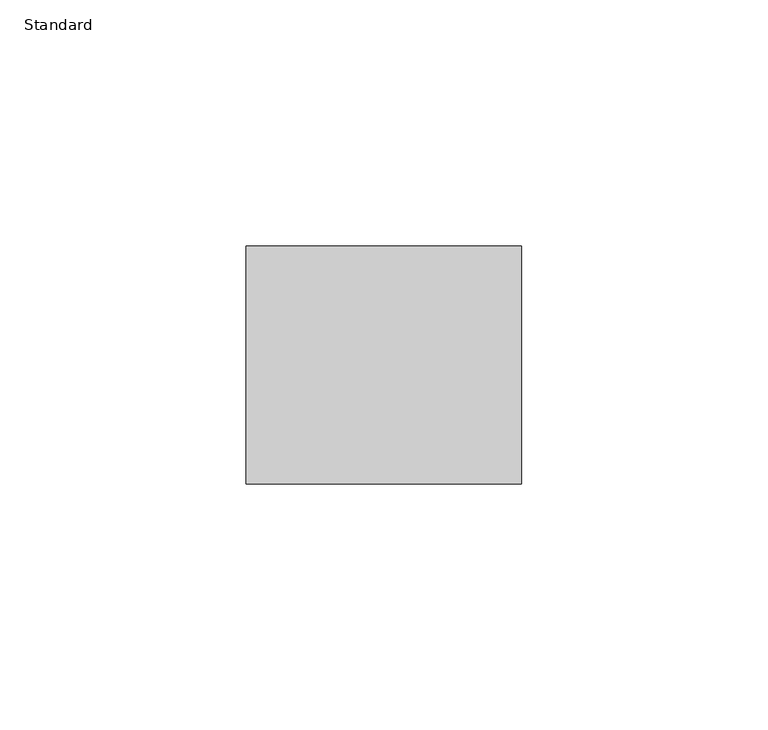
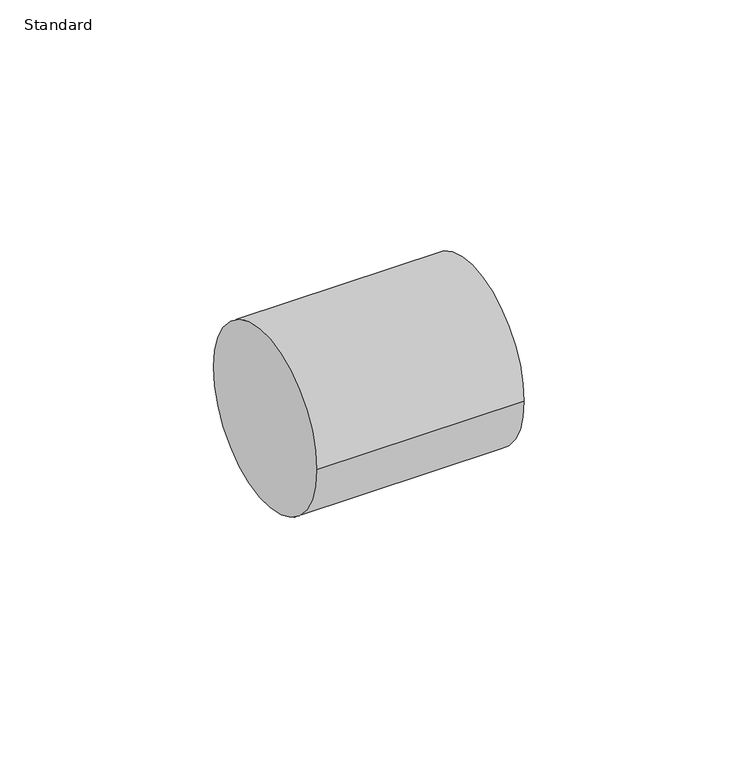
"""IFC4 building model written with IfcOpenShell, lengths in millimetres: pipe fitting geometry, Cap_Lubrizol_CPVC_FlowGuard_MX : Standard."""

from ifc_helpers import new_model, si_unit, point, frame, origin, origin_2d, place, context, project, spatial, circle_curve, trimmed, segment, composite_curve, outline, extrude, source, transform, mapped, element, save


def standard_23a92373(model_context):
    return source(origin(), model_context, "Body", "SweptSolid", [
        extrude(outline(composite_curve([segment(trimmed(circle_curve(origin_2d(), 24.2089844), [point((-24.2089844, 0.0))], [point((24.2089844, 0.0))], False, "CARTESIAN"), True, "CONTINUOUS"), segment(trimmed(circle_curve(origin_2d(), 24.2089844), [point((24.2089844, 0.0))], [point((-24.2089844, 0.0))], False, "CARTESIAN"), True, "CONTINUOUS")], self_intersect=False)), frame((0.0, 0.0, 0.0), z_axis=(1.0, 0.0, 0.0), x_axis=(0.0, 1.0, 0.0)), (0.0, 0.0, 1.0), 56.0821875),
    ])


if __name__ == "__main__":
    model = new_model("IFC4")
    model_context = context("Model", 3, world=origin())
    ifc_project = project(units=[si_unit("LENGTHUNIT", "METRE", prefix="MILLI")], contexts=[model_context])
    site = spatial("IfcSite", under=ifc_project)
    building = spatial("IfcBuilding", under=site)
    placement = place(None, origin())
    standard_shape = standard_23a92373(model_context)
    element("IfcPipeFitting", 1, ObjectType="Cap_Lubrizol_CPVC_FlowGuard_MX : Standard", at=placement, inside=building, context=model_context, shape_type="MappedRepresentation", body=[
        mapped(standard_shape, transform((0.0, 0.0, 0.0), x_axis=(1.0, 0.0, 0.0), y_axis=(0.0, 1.0, 0.0), z_axis=(0.0, 0.0, 1.0))),
    ])
    save(model, "model.ifc")
